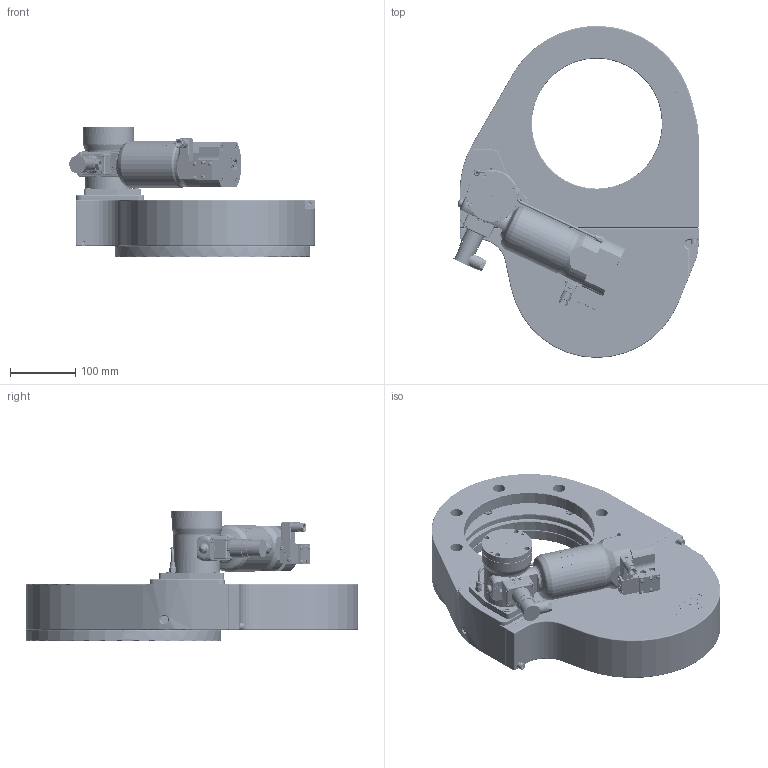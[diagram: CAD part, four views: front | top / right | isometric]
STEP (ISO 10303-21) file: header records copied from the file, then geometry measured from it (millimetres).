
FILE_DESCRIPTION(/* description */ (''),/* implementation_level */ '2;1');
FILE_NAME(/* name */ '1659843760_203.stp',/* time_stamp */ '2013-09-10T14:33:14+02:00',/* author */ (''),/* organization */ (''),/* preprocessor_version */ 'ST-DEVELOPER v11',/* originating_system */ 'SIEMENS PLM Software NX 7.5',/* authorisation */ '');
FILE_SCHEMA (('AP203_CONFIGURATION_CONTROLLED_3D_DESIGN_OF_MECHANICAL_PARTS_AND_ASSEMBLIES_MIM_LF'));
Length unit declared in the file: millimetre
Products named in the file (62): 467882; 437235; 75429-01_18316ID; 69252-01_18314ID; 69252-01_18317ID; 82555-01; n-8210-239; 82610-01; n-8406-007; n-8406-551; n-6030-011; 69672-01; n-8406-006_1; N-7557-016_1.1; N-7557-018.1; N-7557-016_2.1; N-6024-524.1; N-5018-005.1; n-7636-200.2; N-6091-494.1; 358045.2; 218188.1; 248044.2; 250743; N-5002-497.1; N-6203-418.1; N-6091-462.1; N-6121-017.2; N-7607-023.1; N-6071-446.1; 244325.4; N-6005-461.1; N-6005-439_1.1; 265356.2; 265557.2; 244151.3; 244067.5; 242111.11; 222717.1; 242118.14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
Assembly tree (103 placements, depth 4):
  559483
    248240.11
    228776.1  x2
    228777  x11
    n-6134-408  x2
    310926.1
      N-8504-005.2
      71852-r1_NX-ARRAGMNTZUSAMMENSTELLUNG
        n-8406-006_1
        69672-01
        n-6030-011  x4
        n-8406-551  x2
        n-8406-007
        82610-01
        n-8210-239  x4
        82555-01
      n-6024-531  x4
      69428-r1_MODEL
        69252-01_18317ID
        69252-01_18314ID
        75429-01_18316ID
      69846-01
    310931.1
    310754.3_NX-ARRAGMNTEXPLOSIONE
      247374.3
      310276.1
      310619.1
      242117.8
      244326.2
      242118.14
      222717.1  x2
      242111.11
      244067.5
      244151.3
      265557.2
      265356.2
      N-6005-439_1.1  x8
      N-6005-461.1  x4
      244325.4
      N-6071-446.1
      N-7607-023.1
      N-6121-017.2
      N-6091-462.1
      N-6203-418.1
      N-5002-497.1
      250743
      248044.2
      218188.1  x3
    358048.3
      358045.2
      N-6091-494.1  x2
      n-7636-200.2
    358061.2
    489155_NX-ARRAGMNTKONFIG1
      N-5018-005.1  x2
      N-6024-524.1  x6
      N-7557-016_2.1
      N-7557-018.1
      N-7557-016_1.1
      N-7557-016_3.1_MODELNX-ARRAGMNTArrangement 1
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Bounding box: 377.02 x 510 x 199.7 mm (x, y, z)
Volume: 5469767.7 mm3; surface area: 1124201.1 mm2
Topology: 155 solids, 155 shells, 4536 faces, 10870 edges, 6956 vertices
Faces by surface type: plane 2407, cylinder 1048, cone 337, bspline 310, torus 212, extrusion 177, sphere 42, revolution 3
Full cylindrical faces by diameter (mm): 0.5 x2, 1 x8, 1.2 x10, 1.5 x11, 1.6 x6, 1.95 x4, 2 x6, 2.2 x4, 2.25 x6, 2.3 x4, 2.5 x20, 2.7 x4, 2.8 x4, 2.856 x4, 3 x23, 3.2 x8, 3.26 x9, 3.3 x17, 3.4 x8, 3.5 x7, 3.8 x1, 3.9 x4, 4 x38, 4.025 x1, 4.054 x1, 4.134 x1, 4.16 x4, 4.2 x11, 4.22 x1, 4.5 x8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
Entity records: 135716 total; most frequent: CARTESIAN_POINT 40721, DIRECTION 16571, ORIENTED_EDGE 16326, EDGE_CURVE 8163, AXIS2_PLACEMENT_3D 6293, VERTEX_POINT 5813, EDGE_LOOP 5351, VECTOR 3982
